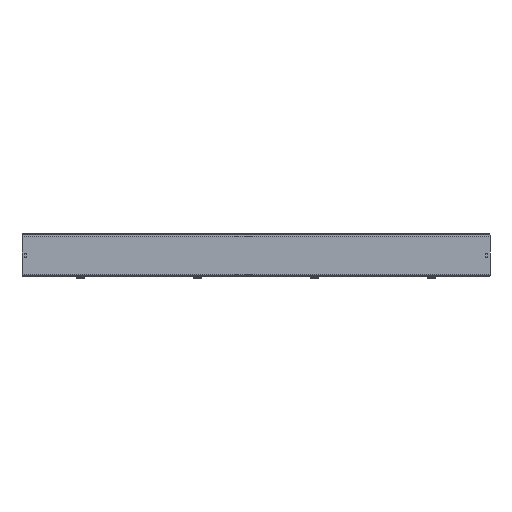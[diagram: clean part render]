
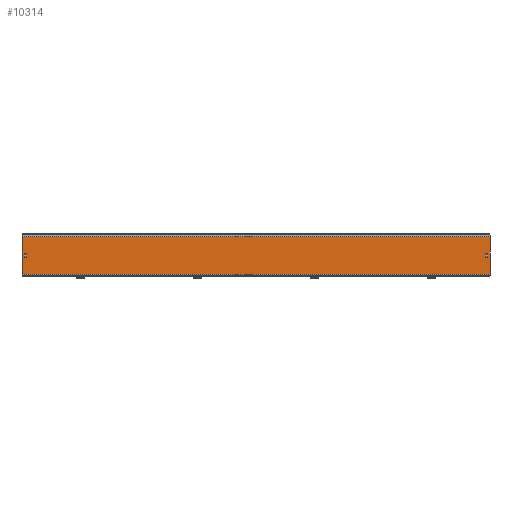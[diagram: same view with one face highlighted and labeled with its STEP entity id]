
A CAD part, front view. The second image highlights one B-rep face of the part: STEP entity #10314.
In plain terms, the highlighted planar face has unit normal (0, -1, 0).
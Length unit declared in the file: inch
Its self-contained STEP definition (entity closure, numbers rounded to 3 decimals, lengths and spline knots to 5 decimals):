
#11 = CIRCLE ( 'NONE', #10293, 0.125 ) ;
#27 = DIRECTION ( 'NONE',  ( 0., 0., 1. ) ) ;
#124 = CARTESIAN_POINT ( 'NONE',  ( 23.75, 0., 0.09375 ) ) ;
#161 = DIRECTION ( 'NONE',  ( 0., 1., 0. ) ) ;
#410 = CARTESIAN_POINT ( 'NONE',  ( -24., 0., 2.075 ) ) ;
#496 = CARTESIAN_POINT ( 'NONE',  ( -23.75, 0., -0.09375 ) ) ;
#692 = CIRCLE ( 'NONE', #9240, 0.125 ) ;
#712 = VERTEX_POINT ( 'NONE', #3340 ) ;
#798 = DIRECTION ( 'NONE',  ( 0., 0., -1. ) ) ;
#834 = CARTESIAN_POINT ( 'NONE',  ( -23.625, 0., 0.09375 ) ) ;
#845 = CIRCLE ( 'NONE', #6971, 0.125 ) ;
#953 = CARTESIAN_POINT ( 'NONE',  ( 23.5, 0., 0.09375 ) ) ;
#968 = ORIENTED_EDGE ( 'NONE', *, *, #2062, .T. ) ;
#993 = CARTESIAN_POINT ( 'NONE',  ( -23.75, 0., 0.09375 ) ) ;
#1000 = CARTESIAN_POINT ( 'NONE',  ( 23.625, 0., -0.09375 ) ) ;
#1029 = ORIENTED_EDGE ( 'NONE', *, *, #4133, .T. ) ;
#1089 = DIRECTION ( 'NONE',  ( -1., 0., 0. ) ) ;
#1134 = LINE ( 'NONE', #410, #9535 ) ;
#1251 = EDGE_CURVE ( 'NONE', #7283, #9097, #5707, .T. ) ;
#1363 = CARTESIAN_POINT ( 'NONE',  ( -23.75, 0., 0.09375 ) ) ;
#1371 = AXIS2_PLACEMENT_3D ( 'NONE', #834, #6517, #1660 ) ;
#1412 = LINE ( 'NONE', #993, #7637 ) ;
#1425 = FACE_OUTER_BOUND ( 'NONE', #6594, .T. ) ;
#1525 = LINE ( 'NONE', #5724, #7754 ) ;
#1582 = PLANE ( 'NONE',  #1927 ) ;
#1609 = VECTOR ( 'NONE', #3023, 39.37008 ) ;
#1660 = DIRECTION ( 'NONE',  ( 0., 0., 1. ) ) ;
#1691 = LINE ( 'NONE', #6441, #10079 ) ;
#1726 = LINE ( 'NONE', #7593, #4098 ) ;
#1826 = DIRECTION ( 'NONE',  ( 0., 0., -1. ) ) ;
#1886 = VERTEX_POINT ( 'NONE', #5387 ) ;
#1927 = AXIS2_PLACEMENT_3D ( 'NONE', #10536, #5658, #798 ) ;
#1931 = VERTEX_POINT ( 'NONE', #953 ) ;
#1954 = VECTOR ( 'NONE', #4889, 39.37008 ) ;
#2062 = EDGE_CURVE ( 'NONE', #4235, #1886, #4766, .T. ) ;
#2096 = EDGE_CURVE ( 'NONE', #7926, #3280, #8606, .T. ) ;
#2159 = CARTESIAN_POINT ( 'NONE',  ( -23.5, 0., 0.09375 ) ) ;
#2188 = VERTEX_POINT ( 'NONE', #496 ) ;
#2204 = LINE ( 'NONE', #6516, #1954 ) ;
#2803 = VERTEX_POINT ( 'NONE', #7770 ) ;
#3023 = DIRECTION ( 'NONE',  ( 0., 0., -1. ) ) ;
#3141 = CARTESIAN_POINT ( 'NONE',  ( -23.625, 0., -0.09375 ) ) ;
#3280 = VERTEX_POINT ( 'NONE', #9222 ) ;
#3333 = CARTESIAN_POINT ( 'NONE',  ( 23.75, 0., -0.09375 ) ) ;
#3340 = CARTESIAN_POINT ( 'NONE',  ( -24., 0., -1.94 ) ) ;
#3513 = EDGE_CURVE ( 'NONE', #1931, #7283, #692, .T. ) ;
#3557 = FACE_BOUND ( 'NONE', #4004, .T. ) ;
#3699 = VERTEX_POINT ( 'NONE', #6057 ) ;
#3795 = DIRECTION ( 'NONE',  ( 0., 0., -1. ) ) ;
#3798 = FACE_BOUND ( 'NONE', #6315, .T. ) ;
#3889 = ORIENTED_EDGE ( 'NONE', *, *, #7621, .T. ) ;
#3953 = DIRECTION ( 'NONE',  ( 0., 0., 1. ) ) ;
#3988 = DIRECTION ( 'NONE',  ( -1., 0., 0. ) ) ;
#4004 = EDGE_LOOP ( 'NONE', ( #10520, #4361, #4925, #10354, #5224 ) ) ;
#4056 = ORIENTED_EDGE ( 'NONE', *, *, #10266, .T. ) ;
#4098 = VECTOR ( 'NONE', #1089, 39.37008 ) ;
#4133 = EDGE_CURVE ( 'NONE', #2188, #4326, #1412, .T. ) ;
#4235 = VERTEX_POINT ( 'NONE', #5821 ) ;
#4326 = VERTEX_POINT ( 'NONE', #1363 ) ;
#4361 = ORIENTED_EDGE ( 'NONE', *, *, #1251, .T. ) ;
#4585 = CARTESIAN_POINT ( 'NONE',  ( 24., 0., 2.075 ) ) ;
#4622 = AXIS2_PLACEMENT_3D ( 'NONE', #1000, #161, #1826 ) ;
#4723 = DIRECTION ( 'NONE',  ( 0., 1., 0. ) ) ;
#4766 = LINE ( 'NONE', #4585, #6703 ) ;
#4889 = DIRECTION ( 'NONE',  ( 0., 0., -1. ) ) ;
#4925 = ORIENTED_EDGE ( 'NONE', *, *, #7192, .T. ) ;
#4937 = EDGE_CURVE ( 'NONE', #3280, #1931, #1525, .T. ) ;
#5222 = EDGE_CURVE ( 'NONE', #712, #2803, #1134, .T. ) ;
#5224 = ORIENTED_EDGE ( 'NONE', *, *, #4937, .T. ) ;
#5278 = DIRECTION ( 'NONE',  ( 0., 0., 1. ) ) ;
#5387 = CARTESIAN_POINT ( 'NONE',  ( 24., 0., 1.94 ) ) ;
#5658 = DIRECTION ( 'NONE',  ( 0., -1., 0. ) ) ;
#5664 = LINE ( 'NONE', #7924, #1609 ) ;
#5707 = CIRCLE ( 'NONE', #8081, 0.125 ) ;
#5724 = CARTESIAN_POINT ( 'NONE',  ( 23.5, 0., 0.09375 ) ) ;
#5743 = CIRCLE ( 'NONE', #1371, 0.125 ) ;
#5821 = CARTESIAN_POINT ( 'NONE',  ( 24., 0., -1.94 ) ) ;
#5919 = ORIENTED_EDGE ( 'NONE', *, *, #7270, .T. ) ;
#6057 = CARTESIAN_POINT ( 'NONE',  ( -23.625, 0., 0.21875 ) ) ;
#6315 = EDGE_LOOP ( 'NONE', ( #5919, #9317, #6375, #4056, #1029 ) ) ;
#6375 = ORIENTED_EDGE ( 'NONE', *, *, #8506, .T. ) ;
#6381 = CARTESIAN_POINT ( 'NONE',  ( 23.625, 0., 0.21875 ) ) ;
#6441 = CARTESIAN_POINT ( 'NONE',  ( 24., 0., -1.94 ) ) ;
#6516 = CARTESIAN_POINT ( 'NONE',  ( -23.5, 0., 0.09375 ) ) ;
#6517 = DIRECTION ( 'NONE',  ( 0., 1., 0. ) ) ;
#6594 = EDGE_LOOP ( 'NONE', ( #8544, #9731, #968, #3889 ) ) ;
#6703 = VECTOR ( 'NONE', #10352, 39.37008 ) ;
#6971 = AXIS2_PLACEMENT_3D ( 'NONE', #9629, #4723, #10446 ) ;
#7192 = EDGE_CURVE ( 'NONE', #9097, #7926, #5664, .T. ) ;
#7270 = EDGE_CURVE ( 'NONE', #4326, #3699, #845, .T. ) ;
#7283 = VERTEX_POINT ( 'NONE', #6381 ) ;
#7593 = CARTESIAN_POINT ( 'NONE',  ( 24., 0., 1.94 ) ) ;
#7621 = EDGE_CURVE ( 'NONE', #1886, #2803, #1726, .T. ) ;
#7637 = VECTOR ( 'NONE', #8715, 39.37008 ) ;
#7754 = VECTOR ( 'NONE', #27, 39.37008 ) ;
#7770 = CARTESIAN_POINT ( 'NONE',  ( -24., 0., 1.94 ) ) ;
#7924 = CARTESIAN_POINT ( 'NONE',  ( 23.75, 0., 0.09375 ) ) ;
#7926 = VERTEX_POINT ( 'NONE', #3333 ) ;
#8081 = AXIS2_PLACEMENT_3D ( 'NONE', #10104, #8770, #3795 ) ;
#8506 = EDGE_CURVE ( 'NONE', #9479, #9331, #2204, .T. ) ;
#8544 = ORIENTED_EDGE ( 'NONE', *, *, #5222, .F. ) ;
#8606 = CIRCLE ( 'NONE', #4622, 0.125 ) ;
#8715 = DIRECTION ( 'NONE',  ( 0., 0., 1. ) ) ;
#8748 = DIRECTION ( 'NONE',  ( 0., 0., -1. ) ) ;
#8770 = DIRECTION ( 'NONE',  ( 0., 1., 0. ) ) ;
#8855 = DIRECTION ( 'NONE',  ( 0., 1., 0. ) ) ;
#9097 = VERTEX_POINT ( 'NONE', #124 ) ;
#9222 = CARTESIAN_POINT ( 'NONE',  ( 23.5, 0., -0.09375 ) ) ;
#9240 = AXIS2_PLACEMENT_3D ( 'NONE', #10390, #9584, #8748 ) ;
#9317 = ORIENTED_EDGE ( 'NONE', *, *, #10328, .T. ) ;
#9331 = VERTEX_POINT ( 'NONE', #10134 ) ;
#9479 = VERTEX_POINT ( 'NONE', #2159 ) ;
#9535 = VECTOR ( 'NONE', #5278, 39.37008 ) ;
#9584 = DIRECTION ( 'NONE',  ( 0., 1., 0. ) ) ;
#9629 = CARTESIAN_POINT ( 'NONE',  ( -23.625, 0., 0.09375 ) ) ;
#9731 = ORIENTED_EDGE ( 'NONE', *, *, #10299, .F. ) ;
#10079 = VECTOR ( 'NONE', #3988, 39.37008 ) ;
#10104 = CARTESIAN_POINT ( 'NONE',  ( 23.625, 0., 0.09375 ) ) ;
#10134 = CARTESIAN_POINT ( 'NONE',  ( -23.5, 0., -0.09375 ) ) ;
#10266 = EDGE_CURVE ( 'NONE', #9331, #2188, #11, .T. ) ;
#10293 = AXIS2_PLACEMENT_3D ( 'NONE', #3141, #8855, #3953 ) ;
#10299 = EDGE_CURVE ( 'NONE', #4235, #712, #1691, .T. ) ;
#10314 = ADVANCED_FACE ( 'NONE', ( #3557, #3798, #1425 ), #1582, .T. ) ;
#10328 = EDGE_CURVE ( 'NONE', #3699, #9479, #5743, .T. ) ;
#10352 = DIRECTION ( 'NONE',  ( 0., 0., 1. ) ) ;
#10354 = ORIENTED_EDGE ( 'NONE', *, *, #2096, .T. ) ;
#10390 = CARTESIAN_POINT ( 'NONE',  ( 23.625, 0., 0.09375 ) ) ;
#10446 = DIRECTION ( 'NONE',  ( 0., 0., 1. ) ) ;
#10520 = ORIENTED_EDGE ( 'NONE', *, *, #3513, .T. ) ;
#10536 = CARTESIAN_POINT ( 'NONE',  ( 24., 0., 2.075 ) ) ;
